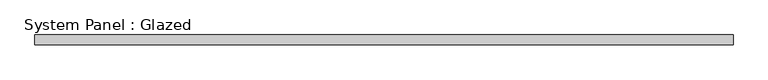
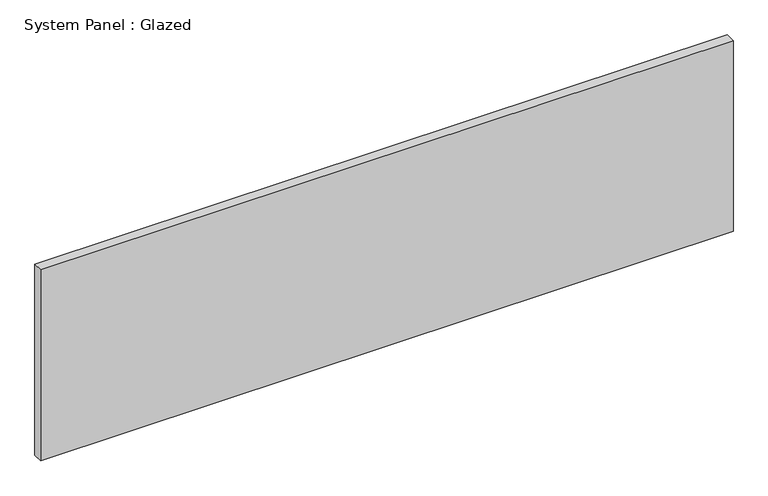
"""IFC4 building model written with IfcOpenShell, lengths in millimetres: plate geometry, System Panel : Glazed."""

import ifcopenshell
import ifcopenshell.guid

model = None  # the IFC model being written
_history = None  # IfcOwnerHistory: only IFC2X3 demands one
_inside = {}  # id of a spatial element -> (the spatial element, [elements in it])
_under = {}  # id of a project, library or spatial element -> (it, [spatial elements below it])
_declared = {}  # id of a project -> (the project, [libraries it declares])
_typed = {}  # id of a type object -> (the type object, [elements of that type])
_made_of = {}  # id of a material, layer set ... -> (it, [elements and type objects made of it])


def new_model(schema):
    """Start an empty IFC model of exactly this schema.

    Asked for "IFC4X3", IfcOpenShell would pick the latest addendum, in which some entities
    have other attributes; the version numbers below select the first issue.
    IFC2X3 requires an IfcOwnerHistory on every rooted entity: one is made here for all.
    """
    global model, _history
    if schema == "IFC4X3":
        model = ifcopenshell.file(schema_version=(4, 3, 0, 0))
    else:
        model = ifcopenshell.file(schema=schema)
    _inside.clear()
    _under.clear()
    _declared.clear()
    _typed.clear()
    _made_of.clear()
    _history = None
    if model.schema == "IFC2X3":
        org = make("IfcOrganization", Name="unknown")
        user = make(
            "IfcPersonAndOrganization",
            ThePerson=make("IfcPerson", FamilyName="unknown"),
            TheOrganization=org,
        )
        app = make(
            "IfcApplication",
            ApplicationDeveloper=org,
            Version="unknown",
            ApplicationFullName="unknown",
            ApplicationIdentifier="unknown",
        )
        _history = make(
            "IfcOwnerHistory",
            OwningUser=user,
            OwningApplication=app,
            ChangeAction="ADDED",
            CreationDate=0,
        )
    return model


def make(cls, **values):
    """One entity of the class cls with the attributes given. An attribute that is None is left unset."""
    return model.create_entity(
        cls, **{name: value for name, value in values.items() if value is not None}
    )


def rooted(cls, **values):
    """An entity with a GlobalId (a new one), such as an element, a storey or a relation."""
    return make(cls, GlobalId=ifcopenshell.guid.new(), OwnerHistory=_history, **values)


def si_unit(unit_type, name, prefix=None):
    """IfcSIUnit, for example si_unit("LENGTHUNIT", "METRE", prefix="MILLI")."""
    return make("IfcSIUnit", UnitType=unit_type, Prefix=prefix, Name=name)


def assignment(units):
    """IfcUnitAssignment: the units of a project."""
    return None if units is None else make("IfcUnitAssignment", Units=units)


def point(xyz):
    """IfcCartesianPoint."""
    return None if xyz is None else make("IfcCartesianPoint", Coordinates=xyz)


def direction(xyz):
    """IfcDirection."""
    return None if xyz is None else make("IfcDirection", DirectionRatios=xyz)


def frame(location, z_axis=None, x_axis=None):
    """IfcAxis2Placement3D, a coordinate frame: its origin and axes. An axis left out is left unset."""
    return make(
        "IfcAxis2Placement3D",
        Location=point(location),
        Axis=direction(z_axis),
        RefDirection=direction(x_axis),
    )


def origin():
    """The frame at (0, 0, 0) with its axes left unset."""
    return frame((0.0, 0.0, 0.0))


def origin_with_axes():
    """The frame at (0, 0, 0) with the z axis (0, 0, 1) and the x axis (1, 0, 0) written out."""
    return frame((0.0, 0.0, 0.0), z_axis=(0.0, 0.0, 1.0), x_axis=(1.0, 0.0, 0.0))


def place(relative_to, where):
    """IfcLocalPlacement: puts the frame where relative to a parent placement (None: the world)."""
    return make(
        "IfcLocalPlacement", PlacementRelTo=relative_to, RelativePlacement=where
    )


def context(
    kind, dimensions, precision=None, world=None, true_north=None, identifier=None
):
    """IfcGeometricRepresentationContext, for example the 3D "Model" context."""
    return make(
        "IfcGeometricRepresentationContext",
        ContextIdentifier=identifier,
        ContextType=kind,
        CoordinateSpaceDimension=dimensions,
        Precision=precision,
        WorldCoordinateSystem=world,
        TrueNorth=true_north,
    )


def project(units=None, contexts=None):
    """IfcProject with its units and contexts."""
    return rooted(
        "IfcProject",
        Name="project",
        RepresentationContexts=contexts,
        UnitsInContext=assignment(units),
    )


def spatial(cls, under=None, at=None, **own):
    """A site, building, storey or space (cls), placed at a placement, below another one or the project."""
    s = rooted(cls, ObjectPlacement=at, **own)
    if under is not None:
        _under.setdefault(under.id(), (under, []))[1].append(s)
    return s


def polyline(points):
    """IfcPolyline through the points."""
    return make("IfcPolyline", Points=[point(p) for p in points])


def outline(outer, holes=None, kind="AREA"):
    """IfcArbitraryClosedProfileDef: a profile drawn as a closed curve; with holes, ...WithVoids."""
    if holes is None:
        return make("IfcArbitraryClosedProfileDef", ProfileType=kind, OuterCurve=outer)
    return make(
        "IfcArbitraryProfileDefWithVoids",
        ProfileType=kind,
        OuterCurve=outer,
        InnerCurves=holes,
    )


def extrude(swept, where, along, depth):
    """IfcExtrudedAreaSolid: the profile swept, set in the frame where, extruded along a direction by depth."""
    return make(
        "IfcExtrudedAreaSolid",
        SweptArea=swept,
        Position=where,
        ExtrudedDirection=direction(along),
        Depth=depth,
    )


def shape(context_of_items, identifier, shape_type, items):
    """IfcShapeRepresentation: the items that make up one representation, for example the "Body"."""
    return make(
        "IfcShapeRepresentation",
        ContextOfItems=context_of_items,
        RepresentationIdentifier=identifier,
        RepresentationType=shape_type,
        Items=items,
    )


def source(mapping_origin, context_of_items, identifier, shape_type, items):
    """IfcRepresentationMap: a shape defined once, which mapped items show again and again."""
    return make(
        "IfcRepresentationMap",
        MappingOrigin=mapping_origin,
        MappedRepresentation=shape(context_of_items, identifier, shape_type, items),
    )


def transform(
    local_origin,
    x_axis=None,
    y_axis=None,
    z_axis=None,
    scale=None,
    scale2=None,
    scale3=None,
    uniform=True,
):
    """IfcCartesianTransformationOperator3D, or its non-uniform kind. x_axis, y_axis, z_axis: its Axis1, 2, 3."""
    if uniform:
        return make(
            "IfcCartesianTransformationOperator3D",
            Axis1=direction(x_axis),
            Axis2=direction(y_axis),
            LocalOrigin=point(local_origin),
            Scale=scale,
            Axis3=direction(z_axis),
        )
    return make(
        "IfcCartesianTransformationOperator3DnonUniform",
        Axis1=direction(x_axis),
        Axis2=direction(y_axis),
        LocalOrigin=point(local_origin),
        Scale=scale,
        Axis3=direction(z_axis),
        Scale2=scale2,
        Scale3=scale3,
    )


def mapped(mapping_source, mapping_target):
    """IfcMappedItem: shows the shape of a source again, moved by a transform."""
    return make(
        "IfcMappedItem", MappingSource=mapping_source, MappingTarget=mapping_target
    )


def made_of(thing, what):
    """Note that an element or type object is made of a material, layer set ...; save() writes the relation."""
    if what is not None:
        _made_of.setdefault(what.id(), (what, []))[1].append(thing)
    return thing


def element(
    cls,
    number,
    at=None,
    inside=None,
    cuts=None,
    type_object=None,
    material=None,
    context=None,
    identifier="Body",
    shape_type=None,
    held_by="IfcProductDefinitionShape",
    body=None,
    shapes=None,
    **own,
):
    """One element of the class cls, such as IfcWall. Its Tag is "e" and its number.

    at: its placement. inside: the storey or other place that contains it. cuts: it is an
    opening in that element (IfcRelVoidsElement). A single representation is given by context,
    identifier, shape_type and body (its items); several are given by shapes. held_by: the class
    of the entity that holds the representations. save() writes the other relations.
    """
    e = rooted(cls, Tag="e%d" % number, ObjectPlacement=at, **own)
    if body is not None:
        shapes = [shape(context, identifier, shape_type, body)]
    if shapes is not None:
        e.Representation = make(held_by, Representations=shapes)
    if inside is not None:
        _inside.setdefault(inside.id(), (inside, []))[1].append(e)
    if cuts is not None:
        rooted(
            "IfcRelVoidsElement", RelatingBuildingElement=cuts, RelatedOpeningElement=e
        )
    if type_object is not None:
        _typed.setdefault(type_object.id(), (type_object, []))[1].append(e)
    return made_of(e, material)


def aggregate(whole, parts):
    """IfcRelAggregates: a whole, such as a stair, and the parts it consists of."""
    return rooted("IfcRelAggregates", RelatingObject=whole, RelatedObjects=parts)


def save(model, path):
    """Write the relations noted so far, then the file.

    IfcRelAggregates (storeys below a building ...), IfcRelContainedInSpatialStructure (elements
    in a storey), IfcRelDefinesByType, IfcRelAssociatesMaterial and IfcRelDeclares: one each for
    every whole, place, type object, material and project.
    """
    for whole, parts in _under.values():
        aggregate(whole, parts)
    for where, things in _inside.values():
        rooted(
            "IfcRelContainedInSpatialStructure",
            RelatedElements=things,
            RelatingStructure=where,
        )
    for kind, things in _typed.values():
        rooted("IfcRelDefinesByType", RelatedObjects=things, RelatingType=kind)
    for what, things in _made_of.values():
        rooted("IfcRelAssociatesMaterial", RelatedObjects=things, RelatingMaterial=what)
    for by, libraries in _declared.values():
        rooted("IfcRelDeclares", RelatingContext=by, RelatedDefinitions=libraries)
    model.write(path)


def system_panel_glazed_33b17147(model_context):
    return source(origin(), model_context, "Body", "SweptSolid", [
        extrude(outline(polyline([(882.65, 19.05), (-882.65, 19.05), (-882.65, 44.45), (882.65, 44.45), (882.65, 19.05)])), origin_with_axes(), (0.0, 0.0, 1.0), 514.35),
    ])


if __name__ == "__main__":
    model = new_model("IFC4")
    model_context = context("Model", 3, world=origin())
    ifc_project = project(units=[si_unit("LENGTHUNIT", "METRE", prefix="MILLI")], contexts=[model_context])
    site = spatial("IfcSite", under=ifc_project)
    building = spatial("IfcBuilding", under=site)
    placement = place(None, origin())
    system_panel_glazed_shape = system_panel_glazed_33b17147(model_context)
    element("IfcPlate", 1, ObjectType="System Panel : Glazed", at=placement, inside=building, context=model_context, shape_type="MappedRepresentation", body=[
        mapped(system_panel_glazed_shape, transform((0.0, 0.0, 0.0), x_axis=(1.0, 0.0, 0.0), y_axis=(0.0, 1.0, 0.0), z_axis=(0.0, 0.0, 1.0))),
    ])
    save(model, "model.ifc")
